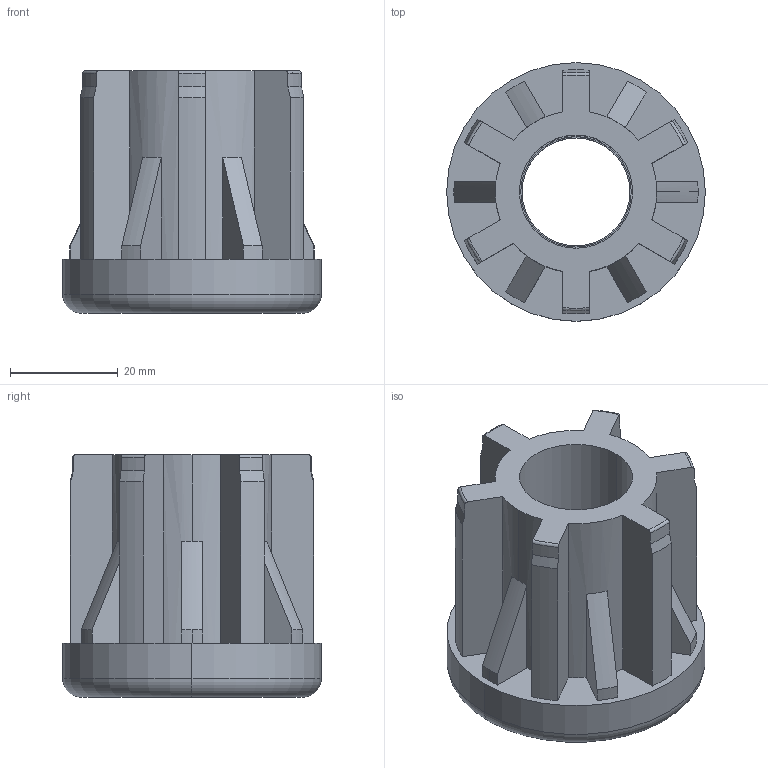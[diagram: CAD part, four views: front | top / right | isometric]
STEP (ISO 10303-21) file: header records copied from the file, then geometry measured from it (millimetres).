
FILE_DESCRIPTION (( 'STEP AP214' ), '1' );
FILE_NAME ('42006448220.STEP', '2020-02-25T17:25:41', ( '' ), ( '' ), 'SwSTEP 2.0', 'SolidWorks 2018', '' );
FILE_SCHEMA (( 'AUTOMOTIVE_DESIGN' ));
Length unit declared in the file: millimetre
Products named in the file (1): 42006448220
Bounding box: 48 x 48 x 45 mm (x, y, z)
Volume: 37460.9 mm3; surface area: 17731.9 mm2
Topology: 2 solids, 2 shells, 95 faces, 257 edges, 169 vertices
Faces by surface type: cylinder 39, plane 31, cone 17, torus 8
Entity records: 3293 total; most frequent: CARTESIAN_POINT 816, DIRECTION 518, ORIENTED_EDGE 514, EDGE_CURVE 257, AXIS2_PLACEMENT_3D 201, VERTEX_POINT 169, LINE 116, VECTOR 116
